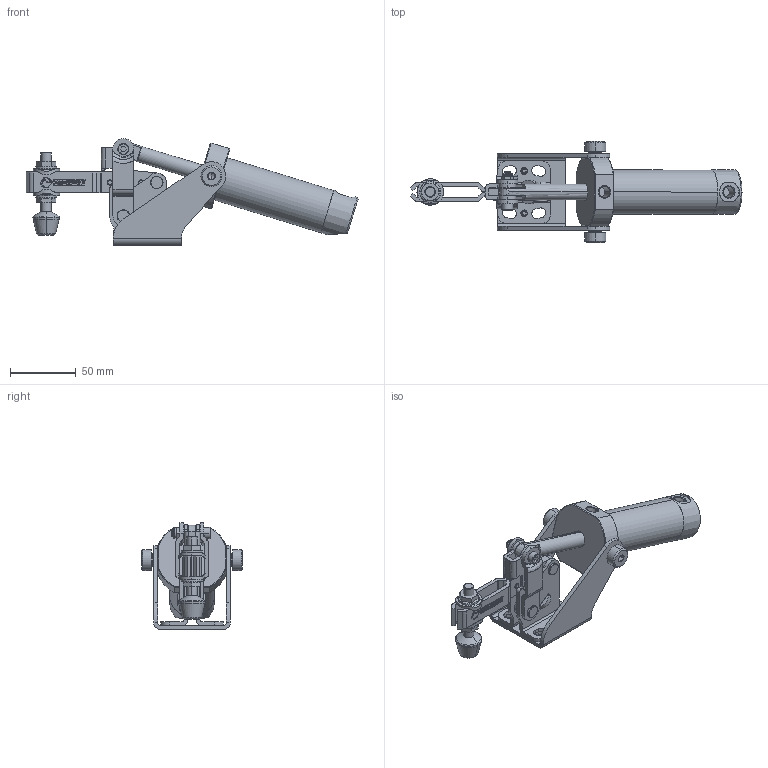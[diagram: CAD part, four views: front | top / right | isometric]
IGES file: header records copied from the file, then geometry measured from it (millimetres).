
Start section: 3D InterOp IGES (v. 2020 1.0.1), Spatial Corp. Copyright (c) 1999-2017.
Global section: file name: 611-3.igs; native system: Spatial Corp.; preprocessor: 3D InterOp ACIS/IGES; author: TraceParts; organization: TraceParts S.A.; date: 20231130.144813; units: millimetre
Bounding box: 253.11 x 77 x 81.5 mm (x, y, z)
Surface area: 88024.4 mm2 (no closed solid volume)
Topology: 0 solids, 0 shells, 1502 faces, 10522 edges, 10493 vertices
Faces by surface type: revolution 1062, extrusion 390, bspline 50
